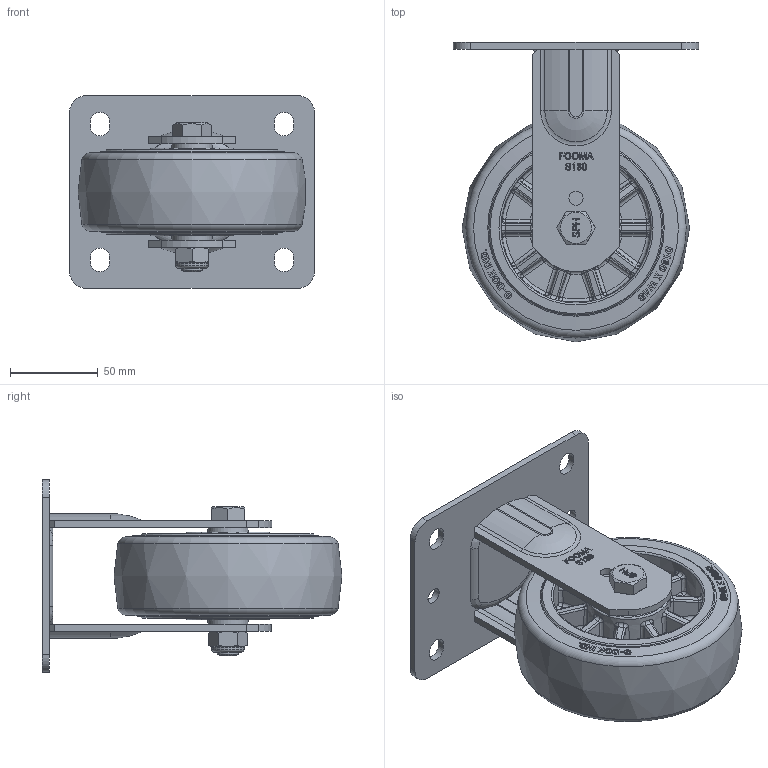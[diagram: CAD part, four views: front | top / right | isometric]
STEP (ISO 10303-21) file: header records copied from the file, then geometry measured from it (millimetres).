
FILE_DESCRIPTION(/* description */ (''),/* implementation_level */ '2;1');
FILE_NAME(/* name */ '\\192.168.10.38\지덕공유\1.기술연구소\2.연구개발 진행중\124.SPH-Series_중하중_2025.02.11\1.도면\2. 3D\홈페이지용\SPH-130-ARF-TUD&HRD-PEU.stp',/* time_stamp */ '2026-05-19T07:49:10+09:00',/* author */ ('admin'),/* organization */ ('지덕산업'),/* preprocessor_version */ 'ST-DEVELOPER v18.1',/* originating_system */ 'Autodesk Inventor 2021',/* authorisation */ '');
FILE_SCHEMA (('AUTOMOTIVE_DESIGN { 1 0 10303 214 3 1 1 }'));
Products named in the file (1): SPH-130-ARF-TUD&HRD-PEU
Bounding box: 140 x 171 x 110 mm (x, y, z)
Volume: 607067.9 mm3; surface area: 119184.3 mm2
Topology: 1 solids, 1 shells, 1532 faces, 3877 edges, 2441 vertices
Faces by surface type: bspline 617, plane 574, cylinder 133, sphere 84, torus 66, cone 58
Full cylindrical faces by diameter (mm): 8 x2, 9 x2, 12 x1, 18 x1, 18.5 x1
Entity records: 56512 total; most frequent: CARTESIAN_POINT 24705, ORIENTED_EDGE 7754, DIRECTION 4749, EDGE_CURVE 3877, VERTEX_POINT 2441, EDGE_LOOP 1644, AXIS2_PLACEMENT_3D 1606, LINE 1537
